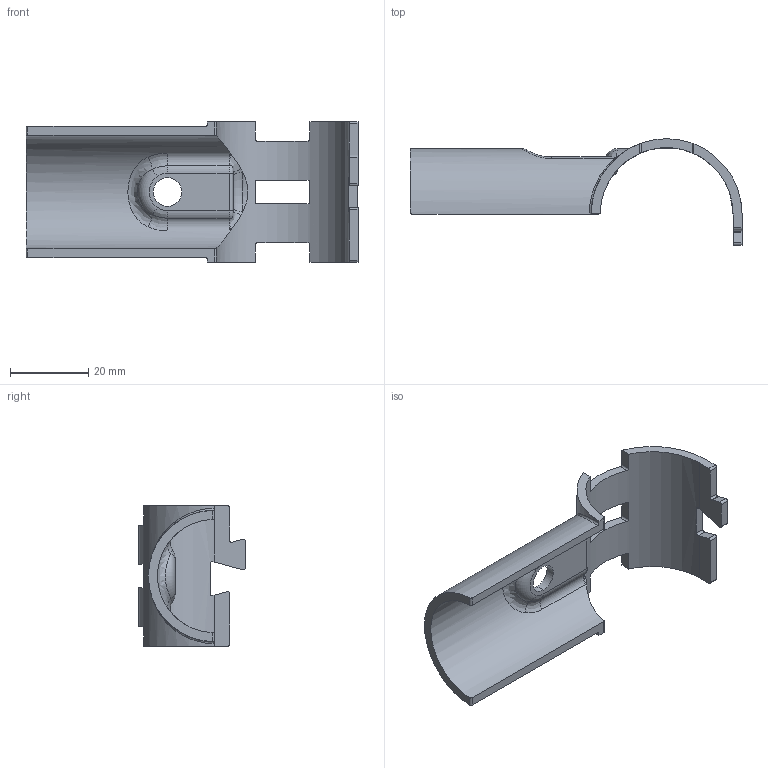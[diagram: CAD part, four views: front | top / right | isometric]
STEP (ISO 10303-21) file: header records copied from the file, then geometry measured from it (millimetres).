
FILE_DESCRIPTION (( 'STEP AP203' ), '1' );
FILE_NAME ('015.100.012.STEP', '2016-10-24T07:33:06', ( '' ), ( '' ), 'SwSTEP 2.0', 'SolidWorks 2016', '' );
FILE_SCHEMA (( 'CONFIG_CONTROL_DESIGN' ));
Length unit declared in the file: millimetre
Products named in the file (1): 015.100.012
Bounding box: 85 x 27.3 x 36 mm (x, y, z)
Volume: 9687.7 mm3; surface area: 9061.4 mm2
Topology: 1 solids, 1 shells, 99 faces, 269 edges, 172 vertices
Faces by surface type: cylinder 41, plane 32, bspline 20, torus 6
Entity records: 4262 total; most frequent: CARTESIAN_POINT 1860, ORIENTED_EDGE 538, DIRECTION 428, EDGE_CURVE 269, VERTEX_POINT 172, AXIS2_PLACEMENT_3D 161, LINE 106, VECTOR 106
